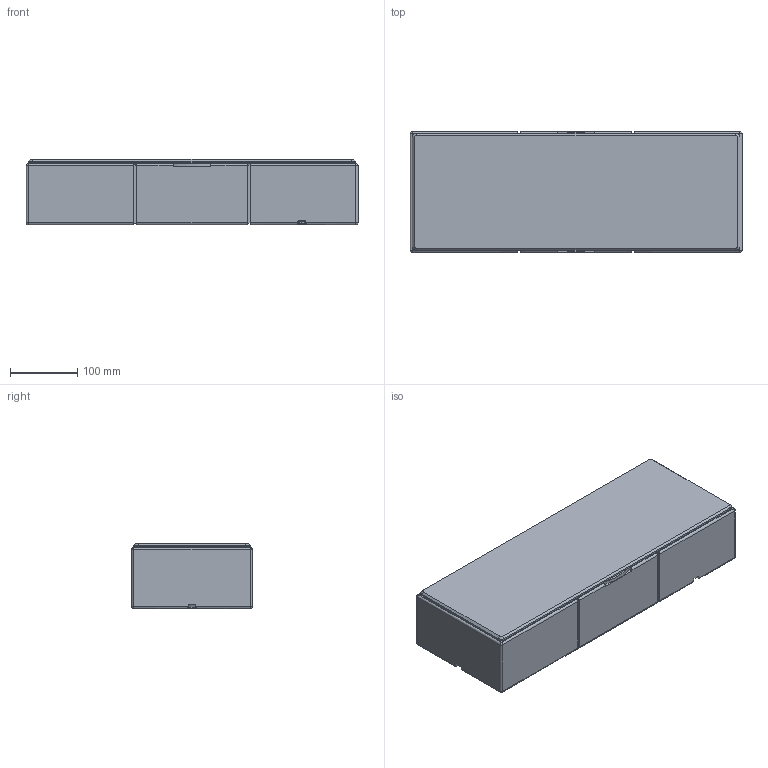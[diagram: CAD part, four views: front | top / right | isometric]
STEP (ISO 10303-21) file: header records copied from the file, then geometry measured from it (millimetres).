
FILE_DESCRIPTION(/* description */ (''),/* implementation_level */ '2;1');
FILE_NAME(/* name */ 'Public_3D Drawings THE6_P_NA - 2025.05.14.step',/* time_stamp */ '2025-05-22T11:54:10+02:00',/* author */ (''),/* organization */ (''),/* preprocessor_version */ 'ST-DEVELOPER v20.1',/* originating_system */ 'Autodesk Translation Framework v14.4.0.0',/* authorisation */ '');
FILE_SCHEMA (('AUTOMOTIVE_DESIGN { 1 0 10303 214 3 1 1 }'));
Products named in the file (3): The 6 Passive Narrow Center _A; Grille; Version 2025 05 14
Assembly tree (2 placements, depth 2):
  The 6 Passive Narrow Center _A
    Grille
    Version 2025 05 14
Bounding box: 495 x 180 x 97.62 mm (x, y, z)
Volume: 7935673 mm3; surface area: 579767.2 mm2
Topology: 2 solids, 41 shells, 2848 faces, 7435 edges, 4832 vertices
Faces by surface type: plane 1610, bspline 477, cylinder 466, cone 211, torus 59, sphere 25
Full cylindrical faces by diameter (mm): 2.5 x60, 3.5 x4, 3.6 x24, 4 x12, 4.5 x2, 5.2 x4, 5.4 x4, 6 x8, 6.5 x20, 7.3 x4, 8 x4, 8.5 x2, 10 x8, 10.3 x8, 10.5 x8, 34 x4, 153 x1, 158 x1, 178.4 x1
Entity records: 103378 total; most frequent: CARTESIAN_POINT 34596, ORIENTED_EDGE 14798, DIRECTION 13324, EDGE_CURVE 7399, VERTEX_POINT 4832, LINE 4548, VECTOR 4548, AXIS2_PLACEMENT_3D 4388
